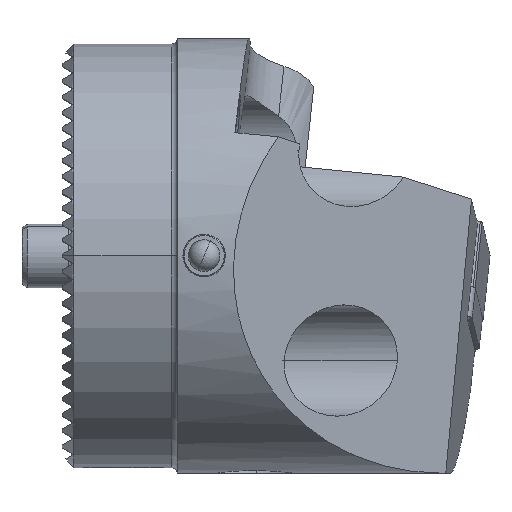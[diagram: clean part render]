
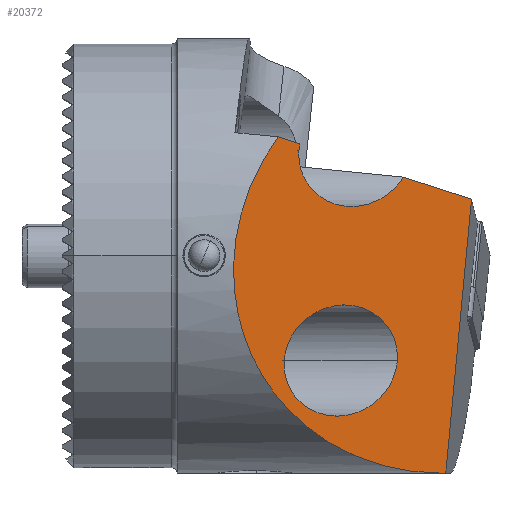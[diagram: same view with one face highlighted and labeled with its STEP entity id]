
A CAD part, top view. The second image highlights one B-rep face of the part: STEP entity #20372.
In plain terms, the highlighted planar face has unit normal (0.701, -0.049, 0.712).
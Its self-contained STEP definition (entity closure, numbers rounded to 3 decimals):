
#65 = EDGE_CURVE ( 'NONE', #13806, #15578, #10872, .T. ) ;
#432 = VERTEX_POINT ( 'NONE', #6731 ) ;
#436 = CARTESIAN_POINT ( 'NONE',  ( 22.051, 10.57, 15.106 ) ) ;
#761 = EDGE_CURVE ( 'NONE', #1358, #432, #13087, .T. ) ;
#768 = CARTESIAN_POINT ( 'NONE',  ( 21.96, 9.899, 15.149 ) ) ;
#913 = CARTESIAN_POINT ( 'NONE',  ( 20.016, 11.224, 17.154 ) ) ;
#1067 = CARTESIAN_POINT ( 'NONE',  ( 19.806, -20.5, 15.166 ) ) ;
#1358 = VERTEX_POINT ( 'NONE', #10449 ) ;
#1661 = CARTESIAN_POINT ( 'NONE',  ( 20.568, -9.899, 15.149 ) ) ;
#1663 = ORIENTED_EDGE ( 'NONE', *, *, #18143, .T. ) ;
#2049 =( BOUNDED_CURVE ( )  B_SPLINE_CURVE ( 3, ( #13886, #10667, #19093, #15687 ),
 .UNSPECIFIED., .F., .F. ) 
 B_SPLINE_CURVE_WITH_KNOTS ( ( 4, 4 ),
 ( 3.073, 5.724 ),
 .UNSPECIFIED. ) 
 CURVE ( )  GEOMETRIC_REPRESENTATION_ITEM ( )  RATIONAL_B_SPLINE_CURVE ( ( 1., 0.495, 0.495, 1. ) ) 
 REPRESENTATION_ITEM ( '' )  );
#2075 = ORIENTED_EDGE ( 'NONE', *, *, #5539, .F. ) ;
#2167 = ORIENTED_EDGE ( 'NONE', *, *, #10628, .F. ) ;
#2387 = CARTESIAN_POINT ( 'NONE',  ( 39.834, 4.855, -2.79 ) ) ;
#3070 = CARTESIAN_POINT ( 'NONE',  ( 35.216, -20.5, 0. ) ) ;
#3286 = CARTESIAN_POINT ( 'NONE',  ( 38.251, 5.364, -1.198 ) ) ;
#3941 = CARTESIAN_POINT ( 'NONE',  ( 21.306, 0.601, 15.149 ) ) ;
#4366 = DIRECTION ( 'NONE',  ( 0.713, 0., -0.701 ) ) ;
#4844 = DIRECTION ( 'NONE',  ( -0.701, 0.049, -0.712 ) ) ;
#4931 = VERTEX_POINT ( 'NONE', #16795 ) ;
#5015 = LINE ( 'NONE', #14315, #10616 ) ;
#5042 = ORIENTED_EDGE ( 'NONE', *, *, #761, .F. ) ;
#5539 = EDGE_CURVE ( 'NONE', #17878, #15755, #16498, .T. ) ;
#5583 = CARTESIAN_POINT ( 'NONE',  ( 20.568, -9.899, 15.149 ) ) ;
#5751 = EDGE_CURVE ( 'NONE', #15755, #19798, #2049, .T. ) ;
#6344 = VECTOR ( 'NONE', #4366, 1000. ) ;
#6731 = CARTESIAN_POINT ( 'NONE',  ( 20.568, -9.899, 15.149 ) ) ;
#6951 = CARTESIAN_POINT ( 'NONE',  ( 21.976, 10.124, 15.149 ) ) ;
#7806 = EDGE_LOOP ( 'NONE', ( #5042, #17405 ) ) ;
#7968 = ORIENTED_EDGE ( 'NONE', *, *, #5751, .F. ) ;
#8032 = CARTESIAN_POINT ( 'NONE',  ( 30.499, -20.399, 4.649 ) ) ;
#8134 = CARTESIAN_POINT ( 'NONE',  ( 50.529, 1.731, -13.532 ) ) ;
#8180 = EDGE_CURVE ( 'NONE', #19798, #20871, #5015, .T. ) ;
#9111 = CARTESIAN_POINT ( 'NONE',  ( 8.646, -4.242, 27.274 ) ) ;
#9330 = ORIENTED_EDGE ( 'NONE', *, *, #8180, .F. ) ;
#9484 = DIRECTION ( 'NONE',  ( 0.687, -0.221, -0.692 ) ) ;
#9524 = CARTESIAN_POINT ( 'NONE',  ( 22.051, 10.57, 15.106 ) ) ;
#10433 = AXIS2_PLACEMENT_3D ( 'NONE', #8134, #4844, #14749 ) ;
#10449 = CARTESIAN_POINT ( 'NONE',  ( 31.237, -9.899, 4.649 ) ) ;
#10596 = DIRECTION ( 'NONE',  ( 0.687, -0.221, -0.692 ) ) ;
#10616 = VECTOR ( 'NONE', #9484, 1000. ) ;
#10628 = EDGE_CURVE ( 'NONE', #20871, #4931, #12798, .T. ) ;
#10667 = CARTESIAN_POINT ( 'NONE',  ( 21.478, 3.041, 15.149 ) ) ;
#10800 = VECTOR ( 'NONE', #10596, 1000. ) ;
#10872 =( BOUNDED_CURVE ( )  B_SPLINE_CURVE ( 3, ( #913, #9111, #18671, #12363 ),
 .UNSPECIFIED., .F., .F. ) 
 B_SPLINE_CURVE_WITH_KNOTS ( ( 4, 4 ),
 ( 2.493, 4.643 ),
 .UNSPECIFIED. ) 
 CURVE ( )  GEOMETRIC_REPRESENTATION_ITEM ( )  RATIONAL_B_SPLINE_CURVE ( ( 1., 0.65, 0.65, 1. ) ) 
 REPRESENTATION_ITEM ( '' )  );
#11106 = EDGE_LOOP ( 'NONE', ( #19519, #1663, #2167, #9330, #7968, #2075, #15367 ) ) ;
#11454 = CARTESIAN_POINT ( 'NONE',  ( 31.827, 7.428, 5.267 ) ) ;
#11637 =( BOUNDED_CURVE ( )  B_SPLINE_CURVE ( 3, ( #1661, #16214, #8032, #16345 ),
 .UNSPECIFIED., .F., .F. ) 
 B_SPLINE_CURVE_WITH_KNOTS ( ( 4, 4 ),
 ( 3.073, 6.214 ),
 .UNSPECIFIED. ) 
 CURVE ( )  GEOMETRIC_REPRESENTATION_ITEM ( )  RATIONAL_B_SPLINE_CURVE ( ( 1., 0.333, 0.333, 1. ) ) 
 REPRESENTATION_ITEM ( '' )  );
#11752 = CARTESIAN_POINT ( 'NONE',  ( 22.006, 10.348, 15.135 ) ) ;
#11776 = CARTESIAN_POINT ( 'NONE',  ( 21.96, 9.899, 15.149 ) ) ;
#11886 = CARTESIAN_POINT ( 'NONE',  ( 31.237, -9.899, 4.649 ) ) ;
#12045 = LINE ( 'NONE', #2387, #10800 ) ;
#12363 = CARTESIAN_POINT ( 'NONE',  ( 35.216, -20.5, 0. ) ) ;
#12432 = DIRECTION ( 'NONE',  ( -0.093, -0.995, 0.023 ) ) ;
#12798 = LINE ( 'NONE', #15240, #16919 ) ;
#13087 =( BOUNDED_CURVE ( )  B_SPLINE_CURVE ( 3, ( #11886, #18481, #3941, #5583 ),
 .UNSPECIFIED., .F., .F. ) 
 B_SPLINE_CURVE_WITH_KNOTS ( ( 4, 4 ),
 ( 6.214, 9.356 ),
 .UNSPECIFIED. ) 
 CURVE ( )  GEOMETRIC_REPRESENTATION_ITEM ( )  RATIONAL_B_SPLINE_CURVE ( ( 1., 0.333, 0.333, 1. ) ) 
 REPRESENTATION_ITEM ( '' )  );
#13092 = EDGE_CURVE ( 'NONE', #432, #1358, #11637, .T. ) ;
#13806 = VERTEX_POINT ( 'NONE', #15112 ) ;
#13886 = CARTESIAN_POINT ( 'NONE',  ( 21.96, 9.899, 15.149 ) ) ;
#13970 = EDGE_CURVE ( 'NONE', #13806, #17878, #12045, .T. ) ;
#14315 = CARTESIAN_POINT ( 'NONE',  ( 39.834, 4.855, -2.79 ) ) ;
#14749 = DIRECTION ( 'NONE',  ( -0.713, 0., 0.701 ) ) ;
#14998 = LINE ( 'NONE', #1067, #6344 ) ;
#15112 = CARTESIAN_POINT ( 'NONE',  ( 20.016, 11.224, 17.154 ) ) ;
#15240 = CARTESIAN_POINT ( 'NONE',  ( 33.93, -40.716, -0.132 ) ) ;
#15367 = ORIENTED_EDGE ( 'NONE', *, *, #13970, .F. ) ;
#15578 = VERTEX_POINT ( 'NONE', #3070 ) ;
#15687 = CARTESIAN_POINT ( 'NONE',  ( 31.827, 7.428, 5.267 ) ) ;
#15755 = VERTEX_POINT ( 'NONE', #11776 ) ;
#16214 = CARTESIAN_POINT ( 'NONE',  ( 19.83, -20.399, 15.149 ) ) ;
#16345 = CARTESIAN_POINT ( 'NONE',  ( 31.237, -9.899, 4.649 ) ) ;
#16498 =( BOUNDED_CURVE ( )  B_SPLINE_CURVE ( 3, ( #436, #11752, #6951, #768 ),
 .UNSPECIFIED., .F., .F. ) 
 B_SPLINE_CURVE_WITH_KNOTS ( ( 4, 4 ),
 ( 2.944, 3.073 ),
 .UNSPECIFIED. ) 
 CURVE ( )  GEOMETRIC_REPRESENTATION_ITEM ( )  RATIONAL_B_SPLINE_CURVE ( ( 1., 0.999, 0.999, 1. ) ) 
 REPRESENTATION_ITEM ( '' )  );
#16795 = CARTESIAN_POINT ( 'NONE',  ( 35.826, -20.5, -0.6 ) ) ;
#16919 = VECTOR ( 'NONE', #12432, 1000. ) ;
#17243 = FACE_OUTER_BOUND ( 'NONE', #11106, .T. ) ;
#17405 = ORIENTED_EDGE ( 'NONE', *, *, #13092, .F. ) ;
#17878 = VERTEX_POINT ( 'NONE', #9524 ) ;
#17906 = PLANE ( 'NONE',  #10433 ) ;
#18143 = EDGE_CURVE ( 'NONE', #15578, #4931, #14998, .T. ) ;
#18278 = FACE_BOUND ( 'NONE', #7806, .T. ) ;
#18481 = CARTESIAN_POINT ( 'NONE',  ( 31.975, 0.601, 4.649 ) ) ;
#18671 = CARTESIAN_POINT ( 'NONE',  ( 16.436, -20.5, 18.483 ) ) ;
#19093 = CARTESIAN_POINT ( 'NONE',  ( 28.122, 1.377, 8.496 ) ) ;
#19519 = ORIENTED_EDGE ( 'NONE', *, *, #65, .T. ) ;
#19798 = VERTEX_POINT ( 'NONE', #11454 ) ;
#20372 = ADVANCED_FACE ( 'NONE', ( #18278, #17243 ), #17906, .F. ) ;
#20871 = VERTEX_POINT ( 'NONE', #3286 ) ;
